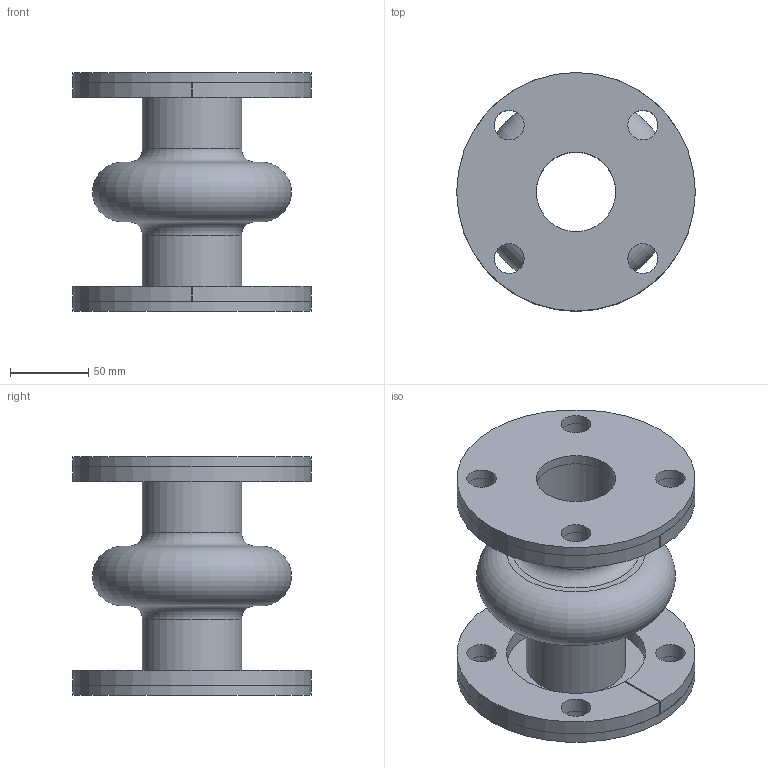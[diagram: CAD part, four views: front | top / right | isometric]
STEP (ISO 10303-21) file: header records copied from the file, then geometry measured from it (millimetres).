
FILE_DESCRIPTION(/* description */ (''),/* implementation_level */ '2;1');
FILE_NAME(/* name */ '2x6.stp',/* time_stamp */ '2026-07-21T15:54:36-05:00',/* author */ ('linda'),/* organization */ (''),/* preprocessor_version */ 'ST-DEVELOPER v20.1',/* originating_system */ 'Autodesk Inventor 2026',/* authorisation */ '');
FILE_SCHEMA (('AUTOMOTIVE_DESIGN { 1 0 10303 214 3 1 1 }'));
Length unit declared in the file: inch
Products named in the file (1): Part16
Bounding box: 152.4 x 152.4 x 152.4 mm (x, y, z)
Volume: 665277.6 mm3; surface area: 218076.5 mm2
Topology: 5 solids, 5 shells, 62 faces, 138 edges, 92 vertices
Faces by surface type: cylinder 32, plane 24, torus 6
Full cylindrical faces by diameter (mm): 19.05 x16, 50.8 x4, 63.5 x2, 152.4 x2
Entity records: 1953 total; most frequent: DIRECTION 346, CARTESIAN_POINT 293, ORIENTED_EDGE 276, AXIS2_PLACEMENT_3D 145, EDGE_CURVE 138, EDGE_LOOP 102, VERTEX_POINT 92, CIRCLE 82
